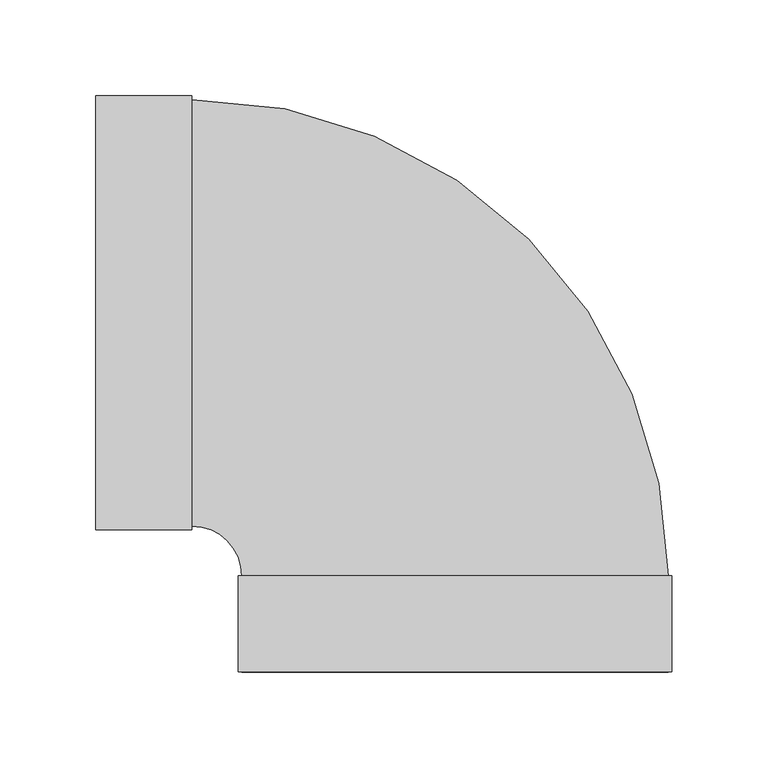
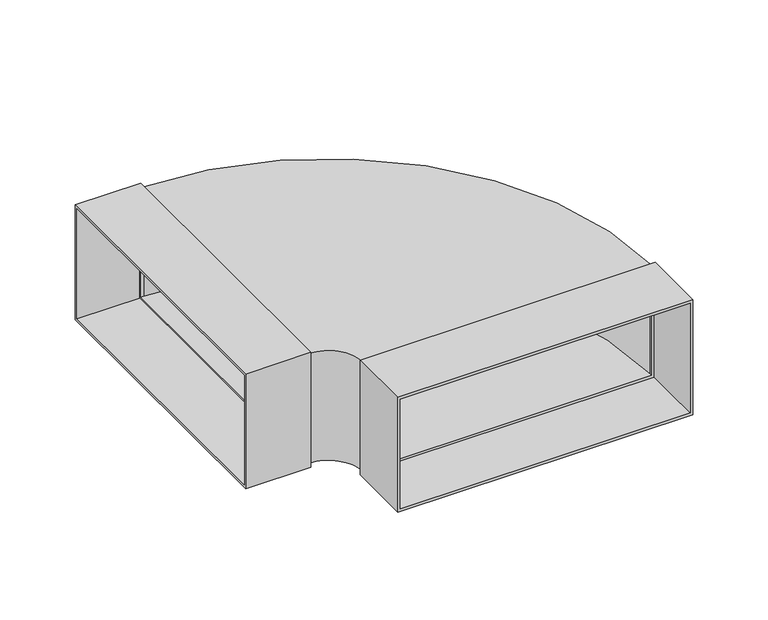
"""IFC4 building model written with IfcOpenShell, lengths in millimetres: proxy geometry, 10811390_D_DFK-BH90 : 28996390_D_10811390_DFK-BH90."""

from ifc_helpers import new_model, si_unit, frame, origin, place, context, project, spatial, polyline, circle_curve, outline, extrude, source, transform, mapped, element, save
from ifc_brep_helpers import plane_surface, cylinder_surface, revolved_surface, advanced_brep


def specialty_equipment_b8d4c64e(model_context):
    return source(origin(), model_context, "Body", "SolidModel", [
        extrude(outline(polyline([(-113.0, 46.5), (113.0, 46.5), (113.0, -46.5), (-113.0, -46.5), (-113.0, 46.5)]), holes=[polyline([(111.0, 44.5), (-111.0, 44.5), (-111.0, -44.5), (111.0, -44.5), (111.0, 44.5)])]), frame((0.0, 0.0, 0.0), z_axis=(1.0, 0.0, 0.0), x_axis=(0.0, 1.0, 0.0)), (0.0, 0.0, 1.0), 50.0),
        advanced_brep(
        [(50.0, 111.0, 44.5), (50.0, 111.0, -44.5), (48.0, 111.0, -44.5), (48.0, 111.0, 44.5), (298.0, -137.0, -44.5), (298.0, -139.0, -44.5), (76.0, -139.0, -44.5), (76.0, -137.0, -44.5), (50.0, -111.0, -44.5), (48.0, -111.0, -44.5), (50.0, -111.0, 44.5), (48.0, -111.0, 44.5), (76.0, -137.0, 44.5), (76.0, -139.0, 44.5), (298.0, -139.0, 44.5), (298.0, -137.0, 44.5), (50.0, 109.0, 42.5), (296.0, -137.0, 42.5), (296.0, -139.0, 42.5), (78.0, -139.0, 42.5), (78.0, -137.0, 42.5), (50.0, -109.0, 42.5), (48.0, -109.0, 42.5), (48.0, 109.0, 42.5), (50.0, -109.0, -42.5), (48.0, -109.0, -42.5), (78.0, -137.0, -42.5), (78.0, -139.0, -42.5), (296.0, -139.0, -42.5), (296.0, -137.0, -42.5), (50.0, 109.0, -42.5), (48.0, 109.0, -42.5)],
        [
            (0, 1),
            (1, 2),
            (2, 3),
            (3, 0),
            (1, 4, circle_curve(frame((50.0, -137.0, -44.5), z_axis=(0.0, 0.0, -1.0), x_axis=(0.0, 1.0, 0.0)), 248.0)),
            (4, 5),
            (5, 6),
            (6, 7),
            (7, 8, circle_curve(frame((50.0, -137.0, -44.5), z_axis=(0.0, 0.0, 1.0), x_axis=(0.0, 1.0, 0.0)), 26.0)),
            (8, 9),
            (9, 2),
            (8, 10),
            (10, 11),
            (11, 9),
            (10, 12, circle_curve(frame((50.0, -137.0, 44.5), z_axis=(0.0, 0.0, -1.0), x_axis=(0.0, 1.0, 0.0)), 26.0)),
            (12, 13),
            (13, 14),
            (14, 15),
            (15, 0, circle_curve(frame((50.0, -137.0, 44.5), z_axis=(0.0, 0.0, 1.0), x_axis=(0.0, 1.0, 0.0)), 248.0)),
            (3, 11),
            (16, 17, circle_curve(frame((50.0, -137.0, 42.5), z_axis=(0.0, 0.0, -1.0), x_axis=(0.0, 1.0, 0.0)), 246.0)),
            (17, 18),
            (18, 19),
            (19, 20),
            (20, 21, circle_curve(frame((50.0, -137.0, 42.5), z_axis=(0.0, 0.0, 1.0), x_axis=(0.0, 1.0, 0.0)), 28.0)),
            (21, 22),
            (22, 23),
            (23, 16),
            (21, 24),
            (24, 25),
            (25, 22),
            (24, 26, circle_curve(frame((50.0, -137.0, -42.5), z_axis=(0.0, 0.0, -1.0), x_axis=(0.0, 1.0, 0.0)), 28.0)),
            (26, 27),
            (27, 28),
            (28, 29),
            (29, 30, circle_curve(frame((50.0, -137.0, -42.5), z_axis=(0.0, 0.0, 1.0), x_axis=(0.0, 1.0, 0.0)), 246.0)),
            (30, 31),
            (31, 25),
            (30, 16),
            (23, 31),
            (15, 4),
            (7, 12),
            (20, 26),
            (29, 17),
            (14, 5),
            (6, 13),
            (19, 27),
            (28, 18),
        ],
        [
            plane_surface(frame((0.0, 111.0, 44.5), z_axis=(0.0, 1.0, 0.0), x_axis=(1.0, 0.0, 0.0))),
            plane_surface(frame((0.0, 111.0, -44.5), z_axis=(0.0, 0.0, -1.0), x_axis=(1.0, 0.0, 0.0))),
            plane_surface(frame((0.0, -111.0, -44.5), z_axis=(0.0, -1.0, 0.0), x_axis=(1.0, 0.0, 0.0))),
            plane_surface(frame((0.0, -111.0, 44.5), z_axis=(0.0, 0.0, 1.0), x_axis=(1.0, 0.0, 0.0))),
            plane_surface(frame((0.0, 109.0, 42.5), z_axis=(0.0, 0.0, -1.0), x_axis=(1.0, 0.0, 0.0))),
            plane_surface(frame((0.0, -109.0, 42.5), z_axis=(0.0, 1.0, 0.0), x_axis=(1.0, 0.0, 0.0))),
            plane_surface(frame((0.0, -109.0, -42.5), z_axis=(0.0, 0.0, 1.0), x_axis=(1.0, 0.0, 0.0))),
            plane_surface(frame((0.0, 109.0, -42.5), z_axis=(0.0, -1.0, 0.0), x_axis=(1.0, 0.0, 0.0))),
            cylinder_surface(frame((50.0, -137.0, 0.0), z_axis=(0.0, 0.0, -1.0), x_axis=(0.0, 1.0, 0.0)), 248.0),
            revolved_surface(polyline([(50.0, -111.0, -44.5), (50.0, -111.0, 44.5)]), (50.0, -137.0, 0.0), (0.0, 0.0, -1.0)),
            cylinder_surface(frame((50.0, -137.0, 0.0), z_axis=(0.0, 0.0, -1.0), x_axis=(0.0, 1.0, 0.0)), 28.0),
            revolved_surface(polyline([(50.0, 109.0, -42.5), (50.0, 109.0, 42.5)]), (50.0, -137.0, 0.0), (0.0, 0.0, -1.0)),
            plane_surface(frame((298.0, -137.0, 44.5), z_axis=(1.0, 0.0, 0.0), x_axis=(0.0, -1.0, 0.0))),
            plane_surface(frame((76.0, -137.0, -44.5), z_axis=(-1.0, 0.0, 0.0), x_axis=(0.0, -1.0, 0.0))),
            plane_surface(frame((78.0, -137.0, 42.5), z_axis=(1.0, 0.0, 0.0), x_axis=(0.0, -1.0, 0.0))),
            plane_surface(frame((296.0, -137.0, -42.5), z_axis=(-1.0, 0.0, 0.0), x_axis=(0.0, -1.0, 0.0))),
            plane_surface(frame((48.0, -111.0, 24.5), z_axis=(-1.0, 0.0, 0.0), x_axis=(0.0, 0.0, -1.0))),
            plane_surface(frame((96.0, -139.0, 44.5), z_axis=(0.0, -1.0, 0.0), x_axis=(1.0, 0.0, 0.0))),
        ],
        [
            (0, [[1, 2, 3, 4]]),
            (1, [[5, 6, 7, 8, 9, 10, 11, -2]]),
            (2, [[12, 13, 14, -10]]),
            (3, [[15, 16, 17, 18, 19, -4, 20, -13]]),
            (4, [[21, 22, 23, 24, 25, 26, 27, 28]]),
            (5, [[29, 30, 31, -26]]),
            (6, [[32, 33, 34, 35, 36, 37, 38, -30]]),
            (7, [[39, -28, 40, -37]]),
            (8, [[-1, -19, 41, -5]]),
            (9, [[-9, 42, -15, -12]]),
            (10, [[-25, 43, -32, -29]]),
            (11, [[-21, -39, -36, 44]]),
            (12, [[-41, -18, 45, -6]]),
            (13, [[-42, -8, 46, -16]]),
            (14, [[-43, -24, 47, -33]]),
            (15, [[-44, -35, 48, -22]]),
            (16, [[-3, -11, -14, -20], [-27, -31, -38, -40]]),
            (17, [[-7, -45, -17, -46], [-23, -48, -34, -47]]),
        ],
    ),
        extrude(outline(polyline([(46.5, 74.0), (-46.5, 74.0), (-46.5, 300.0), (46.5, 300.0), (46.5, 74.0)]), holes=[polyline([(44.5, 76.0), (44.5, 298.0), (-44.5, 298.0), (-44.5, 76.0), (44.5, 76.0)])]), frame((0.0, -187.0, 0.0), z_axis=(0.0, 1.0, 0.0), x_axis=(0.0, 0.0, 1.0)), (0.0, 0.0, 1.0), 50.0),
    ])


if __name__ == "__main__":
    model = new_model("IFC4")
    model_context = context("Model", 3, world=origin())
    ifc_project = project(units=[si_unit("LENGTHUNIT", "METRE", prefix="MILLI")], contexts=[model_context])
    site = spatial("IfcSite", under=ifc_project)
    building = spatial("IfcBuilding", under=site)
    placement = place(None, origin())
    specialty_equipment_shape = specialty_equipment_b8d4c64e(model_context)
    element("IfcBuildingElementProxy", 1, Name="10811390_D_DFK-BH90 : 28996390_D_10811390_DFK-BH90", ObjectType="10811390_D_DFK-BH90 : 28996390_D_10811390_DFK-BH90", at=placement, inside=building, context=model_context, shape_type="MappedRepresentation", body=[
        mapped(specialty_equipment_shape, transform((0.0, 0.0, 0.0), x_axis=(1.0, 0.0, 0.0), y_axis=(0.0, 1.0, 0.0), z_axis=(0.0, 0.0, 1.0))),
    ])
    save(model, "model.ifc")
